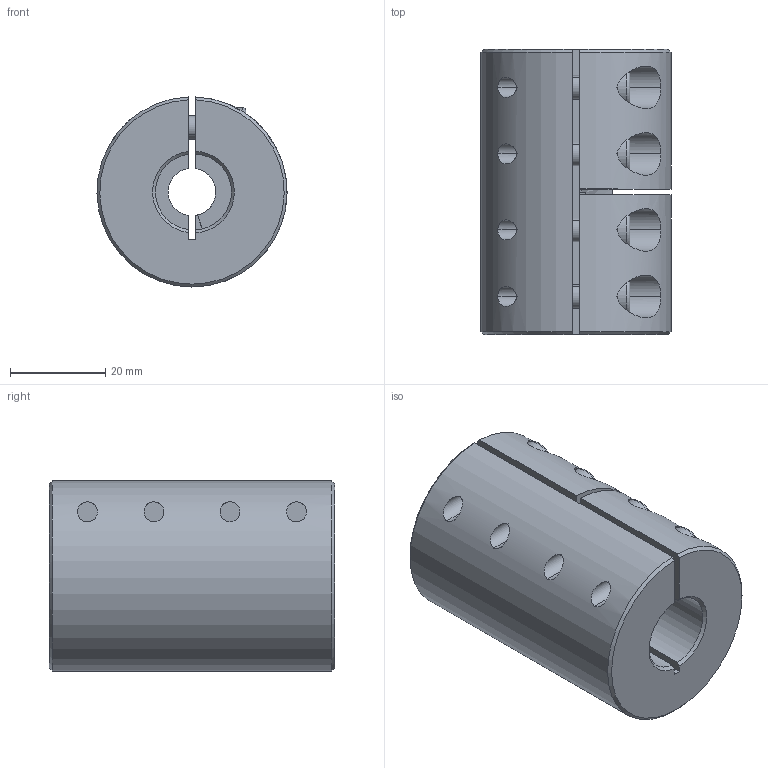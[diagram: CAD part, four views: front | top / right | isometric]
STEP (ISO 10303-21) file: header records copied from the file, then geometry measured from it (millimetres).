
FILE_DESCRIPTION (( 'STEP AP214' ), '1' );
FILE_NAME ('LL-B-D40L60-10-16½¨Ä£.STEP', '2022-07-22T00:53:30', ( '' ), ( '' ), 'SwSTEP 2.0', 'SolidWorks 2022', '' );
FILE_SCHEMA (( 'AUTOMOTIVE_DESIGN' ));
Length unit declared in the file: millimetre
Products named in the file (1): LL-B-D40L60-10-16膘耀
Bounding box: 40 x 60 x 39.99 mm (x, y, z)
Volume: 63416.4 mm3; surface area: 17540.9 mm2
Topology: 1 solids, 1 shells, 182 faces, 463 edges, 291 vertices
Faces by surface type: plane 88, cylinder 71, cone 15, torus 8
Entity records: 6015 total; most frequent: CARTESIAN_POINT 1525, DIRECTION 971, ORIENTED_EDGE 910, EDGE_CURVE 455, AXIS2_PLACEMENT_3D 377, VERTEX_POINT 291, VECTOR 217, LINE 217
